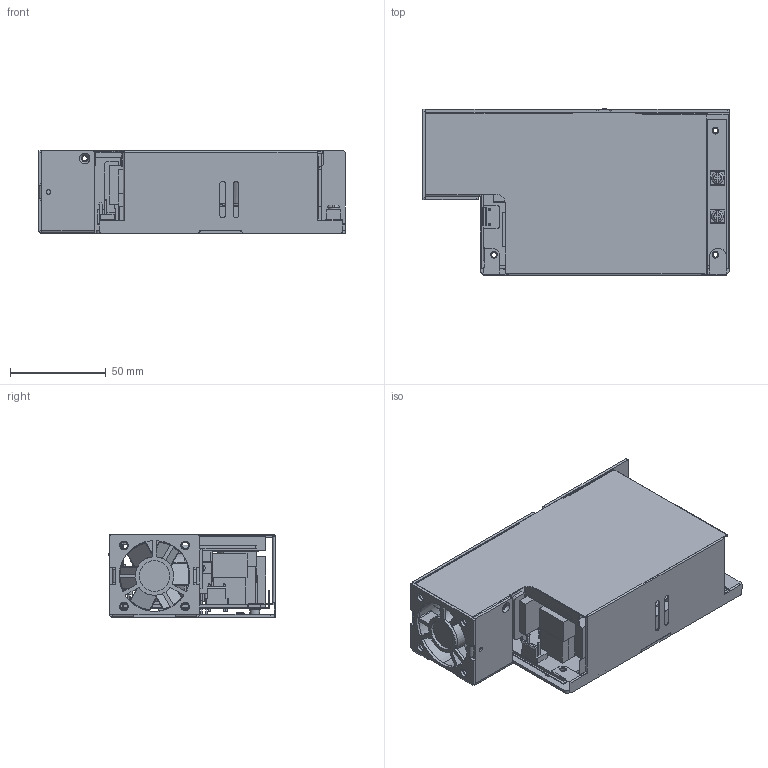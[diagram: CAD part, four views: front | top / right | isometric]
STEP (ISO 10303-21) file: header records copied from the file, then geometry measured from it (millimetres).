
FILE_DESCRIPTION(('Creo Elements/Direct Modeling STEP Export'),'2;1');
FILE_NAME('RPS-500-SF.stp','2021-03-09T10:45:27',(''),(''),'PTC Creo Elements/Direct Modeling STEP processor for AP214 (Solid Model)','PTC Creo Elements/Direct Modeling 19.0 09-May-2014 (C) Parametric Technology GmbH','');
FILE_SCHEMA(('AUTOMOTIVE_DESIGN { 1 0 10303 214 1 1 1 1 }'));
Length unit declared in the file: millimetre
Products named in the file (45): JS1120R_1_1_PRT.PRT; P1_1_PRT.PRT; 8_2_PRT_4_1.PRT; JS1120R_1_ASM.ASM; A1_ASM.ASM; 248B-T.PRT; FAN.PRT; 248B-D.PRT; RPS-500-SF.ASM; R_PRT_13.PRT; _X2_677F_X0_.PRT; C1.PRT; C2.PRT; PCB-C_X2_677F_X0_.ASM; _X2_6E295EA65F005173_X0__1.PRT; U_X2_578B53616263_X0_.PRT; 1HH240X24X0_43.PRT; 1HH233X25X0_25.PRT; L1.PRT; 1GG2MHSSZ007.PRT; HS-SZ089.PRT; HS2.PRT; PIN2-2.PRT; HS-SZ085.ASM; 1HH2RPS-500B.PRT; 1HH251_5X39X0_25.PRT; HS3.PRT; HS-SZ083.ASM; T1-278900.PRT; T1-279230.ASM; 1HH135_4X32-3R5.PRT; LF2.PRT; LF3.PRT; LF1.PRT; BD1.PRT; TO220.PRT; X_X2_75355BB9_X0__1.PRT; _X2_7EE775355668_X0_.PRT; _X2_6E295EA65F005173_X0_.PRT; X_X2_75355BB9_X0_.PRT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
Assembly tree (51 placements, depth 5):
  SF.stp
    248B-T
    SF_1.ASM
      PCB-A_X2_677F_X0_.ASM
        PCB_X2_677F_X0_.PRT
        X_X2_75355BB9_X0_.PRT
        _X2_6E295EA65F005173_X0_.PRT
        _X2_7EE775355668_X0_.PRT
        X_X2_75355BB9_X0__1.PRT
        U_X2_578B53616263_X0_.PRT  x2
        TO220.PRT  x4
        BD1.PRT
        LF1.PRT
        LF3.PRT
        LF2.PRT
        1HH135_4X32-3R5.PRT
        T1-279230.ASM
          T1-278900.PRT
        HS-SZ083.ASM
          PIN2-2.PRT
          HS3.PRT
        1HH251_5X39X0_25.PRT
        1HH2RPS-500B.PRT
        HS-SZ085.ASM
          PIN2-2.PRT
          HS2.PRT
        HS-SZ089.PRT
        1GG2MHSSZ007.PRT
        L1.PRT
        1HH233X25X0_25.PRT
        1HH240X24X0_43.PRT
        _X2_6E295EA65F005173_X0__1.PRT
      PCB-C_X2_677F_X0_.ASM
        C2.PRT
        C1.PRT
        _X2_677F_X0_.PRT
      R_PRT_13.PRT  x2
      RPS-500-SF.ASM
        248B-D.PRT
        FAN.PRT
        248B-T.PRT
      A1_ASM.ASM
        JS1120R_1_ASM.ASM
          8_2_PRT_4_1.PRT  x2
          P1_1_PRT.PRT
        JS1120R_1_1_PRT.PRT
Bounding box: 160 x 87.1 x 43 mm (x, y, z)
Volume: 151004 mm3; surface area: 186677.9 mm2
Topology: 40 solids, 40 shells, 1862 faces, 4643 edges, 2856 vertices
Faces by surface type: plane 835, cylinder 754, torus 156, bspline 51, sphere 48, cone 18
Entity records: 59483 total; most frequent: CARTESIAN_POINT 17953, DIRECTION 8481, ORIENTED_EDGE 8430, EDGE_CURVE 4215, AXIS2_PLACEMENT_3D 3053, VERTEX_POINT 2620, VECTOR 2375, LINE 2375
